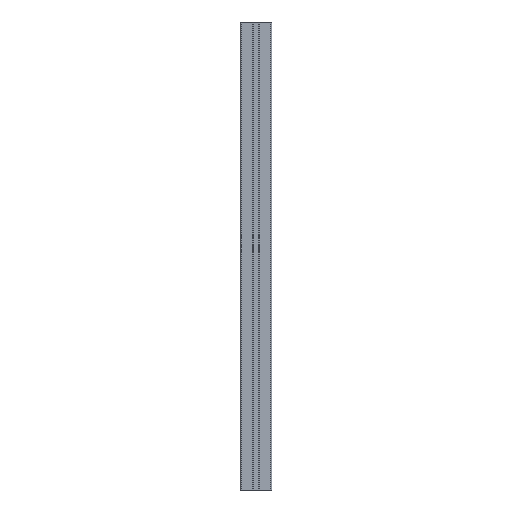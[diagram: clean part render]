
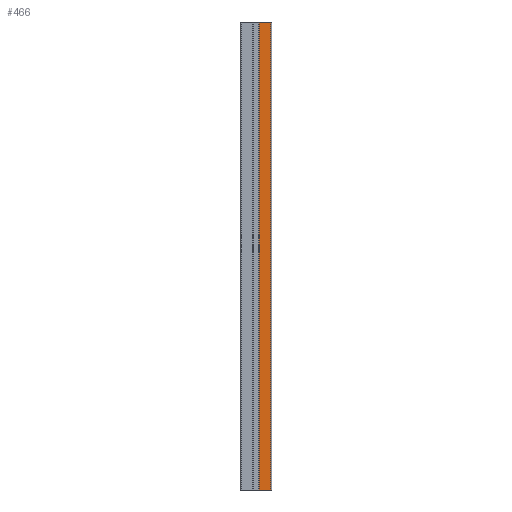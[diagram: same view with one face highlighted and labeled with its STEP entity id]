
A CAD part, front view. The second image highlights one B-rep face of the part: STEP entity #466.
In plain terms, the highlighted planar face has unit normal (0, -1, 0).
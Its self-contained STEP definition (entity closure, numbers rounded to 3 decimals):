
#89 = CARTESIAN_POINT ( 'NONE',  ( 2.2, -10., -150. ) ) ;
#137 = ORIENTED_EDGE ( 'NONE', *, *, #1048, .T. ) ;
#206 = LINE ( 'NONE', #2792, #2634 ) ;
#254 = EDGE_CURVE ( 'NONE', #596, #2323, #206, .T. ) ;
#264 = CARTESIAN_POINT ( 'NONE',  ( 2.2, -10., 150. ) ) ;
#275 = LINE ( 'NONE', #2866, #1556 ) ;
#399 = LINE ( 'NONE', #89, #476 ) ;
#466 = ADVANCED_FACE ( 'NONE', ( #2340 ), #1577, .F. ) ;
#476 = VECTOR ( 'NONE', #2687, 1000. ) ;
#478 = EDGE_CURVE ( 'NONE', #991, #2323, #399, .T. ) ;
#516 = CARTESIAN_POINT ( 'NONE',  ( 9.5, -10., -150. ) ) ;
#572 = LINE ( 'NONE', #264, #1167 ) ;
#596 = VERTEX_POINT ( 'NONE', #1805 ) ;
#698 = DIRECTION ( 'NONE',  ( 0., 0., 1. ) ) ;
#726 = ORIENTED_EDGE ( 'NONE', *, *, #2640, .F. ) ;
#991 = VERTEX_POINT ( 'NONE', #1584 ) ;
#994 = DIRECTION ( 'NONE',  ( 0., 1., 0. ) ) ;
#1048 = EDGE_CURVE ( 'NONE', #1053, #991, #572, .T. ) ;
#1053 = VERTEX_POINT ( 'NONE', #2559 ) ;
#1125 = EDGE_LOOP ( 'NONE', ( #2884, #2046, #726, #137 ) ) ;
#1167 = VECTOR ( 'NONE', #2856, 1000. ) ;
#1291 = CARTESIAN_POINT ( 'NONE',  ( 2.2, -10., 150. ) ) ;
#1556 = VECTOR ( 'NONE', #2569, 1000. ) ;
#1577 = PLANE ( 'NONE',  #1689 ) ;
#1584 = CARTESIAN_POINT ( 'NONE',  ( 2.2, -10., -150. ) ) ;
#1689 = AXIS2_PLACEMENT_3D ( 'NONE', #1291, #994, #698 ) ;
#1805 = CARTESIAN_POINT ( 'NONE',  ( 9.5, -10., 150. ) ) ;
#2046 = ORIENTED_EDGE ( 'NONE', *, *, #254, .F. ) ;
#2323 = VERTEX_POINT ( 'NONE', #516 ) ;
#2340 = FACE_OUTER_BOUND ( 'NONE', #1125, .T. ) ;
#2489 = DIRECTION ( 'NONE',  ( 0., 0., -1. ) ) ;
#2559 = CARTESIAN_POINT ( 'NONE',  ( 2.2, -10., 150. ) ) ;
#2569 = DIRECTION ( 'NONE',  ( 1., 0., 0. ) ) ;
#2634 = VECTOR ( 'NONE', #2489, 1000. ) ;
#2640 = EDGE_CURVE ( 'NONE', #1053, #596, #275, .T. ) ;
#2687 = DIRECTION ( 'NONE',  ( 1., 0., 0. ) ) ;
#2792 = CARTESIAN_POINT ( 'NONE',  ( 9.5, -10., 150. ) ) ;
#2856 = DIRECTION ( 'NONE',  ( 0., 0., -1. ) ) ;
#2866 = CARTESIAN_POINT ( 'NONE',  ( 2.2, -10., 150. ) ) ;
#2884 = ORIENTED_EDGE ( 'NONE', *, *, #478, .T. ) ;
